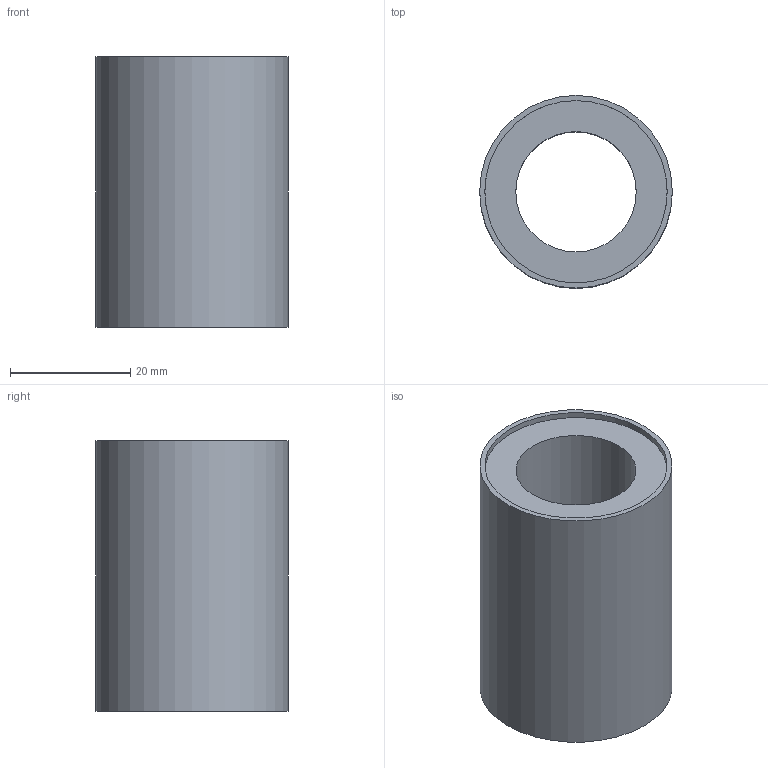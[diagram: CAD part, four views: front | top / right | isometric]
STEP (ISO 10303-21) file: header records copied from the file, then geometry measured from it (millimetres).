
FILE_DESCRIPTION(/* description */ (''),/* implementation_level */ '2;1');
FILE_NAME(/* name */ 'W:\WEBOVKY\Knecht\SBE-UU\SBE-20-UU\SBE-20-UU.stp',/* time_stamp */ '2021-03-08T13:12:55+01:00',/* author */ ('mkorenek'),/* organization */ (''),/* preprocessor_version */ 'ST-DEVELOPER v18.1',/* originating_system */ 'Autodesk Inventor 2021',/* authorisation */ '');
FILE_SCHEMA (('AUTOMOTIVE_DESIGN { 1 0 10303 214 3 1 1 }'));
Length unit declared in the file: millimetre
Products named in the file (3): LME-20-UU; vnitřek pouzdra; vnějšek pouzdra
Assembly tree (2 placements, depth 2):
  LME-20-UU
    vnitřek pouzdra
    vnějšek pouzdra
Bounding box: 32 x 32 x 45 mm (x, y, z)
Volume: 21219.7 mm3; surface area: 16580.3 mm2
Topology: 2 solids, 2 shells, 8 faces, 16 edges, 12 vertices
Faces by surface type: plane 4, cylinder 4
Full cylindrical faces by diameter (mm): 20 x1, 30.29 x1, 30.3 x1, 32 x1
Entity records: 359 total; most frequent: DIRECTION 54, CARTESIAN_POINT 41, ORIENTED_EDGE 32, AXIS2_PLACEMENT_3D 25, EDGE_CURVE 16, EDGE_LOOP 12, CIRCLE 12, VERTEX_POINT 12
